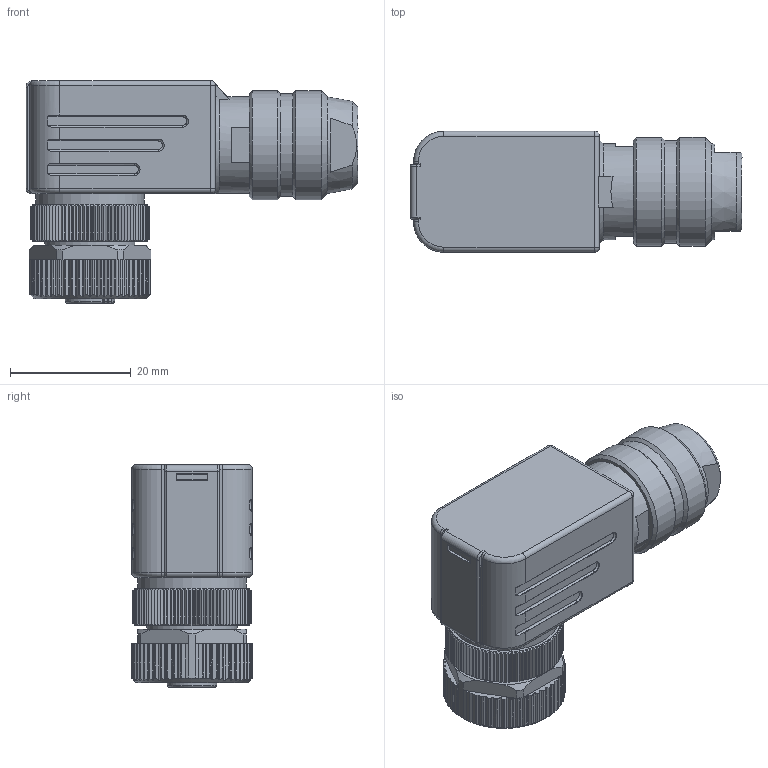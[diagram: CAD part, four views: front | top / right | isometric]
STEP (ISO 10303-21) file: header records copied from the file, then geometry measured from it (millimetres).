
FILE_DESCRIPTION(/* description */ (''),/* implementation_level */ '2;1');
FILE_NAME(/* name */ '99_1436_822_05_001_01.stp',/* time_stamp */ '2016-03-30T08:49:26+02:00',/* author */ (''),/* organization */ (''),/* preprocessor_version */ 'ST-DEVELOPER v14',/* originating_system */ 'SIEMENS PLM Software NX 8.0',/* authorisation */ '');
FILE_SCHEMA (('AUTOMOTIVE_DESIGN { 1 0 10303 214 3 1 1 1 }'));
Length unit declared in the file: millimetre
Products named in the file (1): cerl13204B86uaak
Bounding box: 55 x 20.16 x 36.9 mm (x, y, z)
Volume: 21061.9 mm3; surface area: 6823.7 mm2
Topology: 1 solids, 3 shells, 932 faces, 2279 edges, 1364 vertices
Faces by surface type: plane 413, cylinder 275, cone 218, torus 18, sphere 6, bspline 2
Full cylindrical faces by diameter (mm): 1.1 x5, 1.65 x4, 1.85 x1, 10.917 x1, 15 x1, 16 x1, 17 x1, 18 x3
Entity records: 28843 total; most frequent: CARTESIAN_POINT 8074, ORIENTED_EDGE 4446, DIRECTION 4150, EDGE_CURVE 2223, AXIS2_PLACEMENT_3D 1639, VERTEX_POINT 1348, EDGE_LOOP 981, ADVANCED_FACE 932
